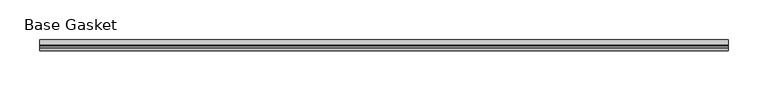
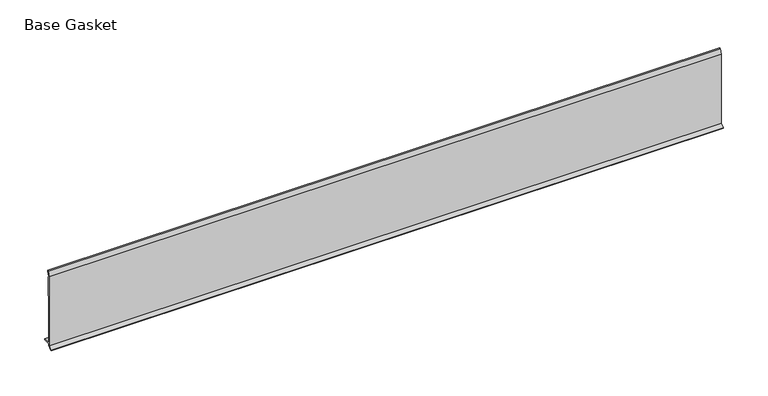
"""IFC4 building model written with IfcOpenShell, lengths in millimetres: furniture geometry, Gasket-Teknion-FHGB-AI_Healthcare-R2021 : Base Gasket."""

from ifc_helpers import new_model, si_unit, frame, origin, place, context, project, spatial, polyline, outline, extrude, source, transform, mapped, element, save


def base_gasket_d93d2645(model_context):
    return source(origin(), model_context, "Body", "SweptSolid", [
        extrude(outline(polyline([(-3.7283812, 98.4568417), (-1.1891543, 104.587663), (-0.6755308, 105.2002997), (-0.6755308, 104.4162708), (-2.2043812, 98.4568417), (-2.2043812, 96.8693477), (-1.4106313, 96.8693477), (-1.4106313, 71.4693447), (-2.2043812, 71.4693447), (-2.2043812, 7.9398773), (6.2405171, 7.9398773), (6.2405171, 6.3818476), (-2.1334222, 6.3818476), (-2.2043812, 4.3498477), (-6.8281054, 0.3520979), (-7.8482342, 0.0), (-7.4222115, 0.6560174), (-3.7283812, 4.3498477), (-3.7283812, 98.4568417)])), frame((-1527.8982117, 0.0, 0.0), z_axis=(1.0, 0.0, 0.0), x_axis=(0.0, 1.0, 0.0)), (0.0, 0.0, 1.0), 866.1590981),
    ])


if __name__ == "__main__":
    model = new_model("IFC4")
    model_context = context("Model", 3, world=origin())
    ifc_project = project(units=[si_unit("LENGTHUNIT", "METRE", prefix="MILLI")], contexts=[model_context])
    site = spatial("IfcSite", under=ifc_project)
    building = spatial("IfcBuilding", under=site)
    placement = place(None, origin())
    base_gasket_shape = base_gasket_d93d2645(model_context)
    element("IfcFurniture", 1, ObjectType="Gasket-Teknion-FHGB-AI_Healthcare-R2021 : Base Gasket", at=placement, inside=building, context=model_context, shape_type="MappedRepresentation", body=[
        mapped(base_gasket_shape, transform((0.0, 0.0, 0.0), x_axis=(1.0, 0.0, 0.0), y_axis=(0.0, 1.0, 0.0), z_axis=(0.0, 0.0, 1.0))),
    ])
    save(model, "model.ifc")
